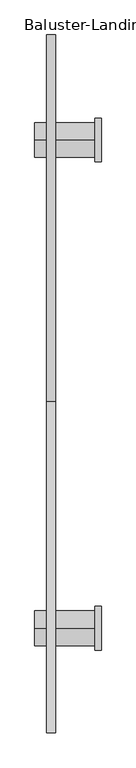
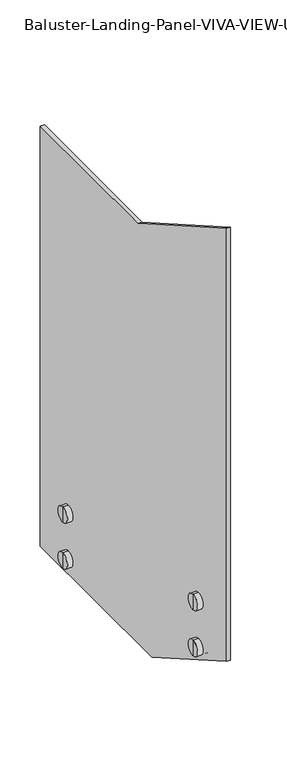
"""IFC4 building model written with IfcOpenShell, lengths in millimetres: railing geometry, Baluster-Landing-Panel-VIVA-VIEW-Upper : Standard_Glass Plate."""

import ifcopenshell
import ifcopenshell.guid

model = None  # the IFC model being written
_history = None  # IfcOwnerHistory: only IFC2X3 demands one
_inside = {}  # id of a spatial element -> (the spatial element, [elements in it])
_under = {}  # id of a project, library or spatial element -> (it, [spatial elements below it])
_declared = {}  # id of a project -> (the project, [libraries it declares])
_typed = {}  # id of a type object -> (the type object, [elements of that type])
_made_of = {}  # id of a material, layer set ... -> (it, [elements and type objects made of it])


def new_model(schema):
    """Start an empty IFC model of exactly this schema.

    Asked for "IFC4X3", IfcOpenShell would pick the latest addendum, in which some entities
    have other attributes; the version numbers below select the first issue.
    IFC2X3 requires an IfcOwnerHistory on every rooted entity: one is made here for all.
    """
    global model, _history
    if schema == "IFC4X3":
        model = ifcopenshell.file(schema_version=(4, 3, 0, 0))
    else:
        model = ifcopenshell.file(schema=schema)
    _inside.clear()
    _under.clear()
    _declared.clear()
    _typed.clear()
    _made_of.clear()
    _history = None
    if model.schema == "IFC2X3":
        org = make("IfcOrganization", Name="unknown")
        user = make(
            "IfcPersonAndOrganization",
            ThePerson=make("IfcPerson", FamilyName="unknown"),
            TheOrganization=org,
        )
        app = make(
            "IfcApplication",
            ApplicationDeveloper=org,
            Version="unknown",
            ApplicationFullName="unknown",
            ApplicationIdentifier="unknown",
        )
        _history = make(
            "IfcOwnerHistory",
            OwningUser=user,
            OwningApplication=app,
            ChangeAction="ADDED",
            CreationDate=0,
        )
    return model


def make(cls, **values):
    """One entity of the class cls with the attributes given. An attribute that is None is left unset."""
    return model.create_entity(
        cls, **{name: value for name, value in values.items() if value is not None}
    )


def rooted(cls, **values):
    """An entity with a GlobalId (a new one), such as an element, a storey or a relation."""
    return make(cls, GlobalId=ifcopenshell.guid.new(), OwnerHistory=_history, **values)


def si_unit(unit_type, name, prefix=None):
    """IfcSIUnit, for example si_unit("LENGTHUNIT", "METRE", prefix="MILLI")."""
    return make("IfcSIUnit", UnitType=unit_type, Prefix=prefix, Name=name)


def assignment(units):
    """IfcUnitAssignment: the units of a project."""
    return None if units is None else make("IfcUnitAssignment", Units=units)


def point(xyz):
    """IfcCartesianPoint."""
    return None if xyz is None else make("IfcCartesianPoint", Coordinates=xyz)


def direction(xyz):
    """IfcDirection."""
    return None if xyz is None else make("IfcDirection", DirectionRatios=xyz)


def frame(location, z_axis=None, x_axis=None):
    """IfcAxis2Placement3D, a coordinate frame: its origin and axes. An axis left out is left unset."""
    return make(
        "IfcAxis2Placement3D",
        Location=point(location),
        Axis=direction(z_axis),
        RefDirection=direction(x_axis),
    )


def frame_2d(location, x_axis=None):
    """IfcAxis2Placement2D, a coordinate frame in the plane: its origin and x axis."""
    return make(
        "IfcAxis2Placement2D", Location=point(location), RefDirection=direction(x_axis)
    )


def origin():
    """The frame at (0, 0, 0) with its axes left unset."""
    return frame((0.0, 0.0, 0.0))


def place(relative_to, where):
    """IfcLocalPlacement: puts the frame where relative to a parent placement (None: the world)."""
    return make(
        "IfcLocalPlacement", PlacementRelTo=relative_to, RelativePlacement=where
    )


def context(
    kind, dimensions, precision=None, world=None, true_north=None, identifier=None
):
    """IfcGeometricRepresentationContext, for example the 3D "Model" context."""
    return make(
        "IfcGeometricRepresentationContext",
        ContextIdentifier=identifier,
        ContextType=kind,
        CoordinateSpaceDimension=dimensions,
        Precision=precision,
        WorldCoordinateSystem=world,
        TrueNorth=true_north,
    )


def project(units=None, contexts=None):
    """IfcProject with its units and contexts."""
    return rooted(
        "IfcProject",
        Name="project",
        RepresentationContexts=contexts,
        UnitsInContext=assignment(units),
    )


def spatial(cls, under=None, at=None, **own):
    """A site, building, storey or space (cls), placed at a placement, below another one or the project."""
    s = rooted(cls, ObjectPlacement=at, **own)
    if under is not None:
        _under.setdefault(under.id(), (under, []))[1].append(s)
    return s


def polyline(points):
    """IfcPolyline through the points."""
    return make("IfcPolyline", Points=[point(p) for p in points])


def circle_curve(where, radius):
    """IfcCircle in the frame where."""
    return make("IfcCircle", Position=where, Radius=radius)


def trimmed(basis, trim1, trim2, sense, master):
    """IfcTrimmedCurve: the piece of a basis curve between two trims."""
    return make(
        "IfcTrimmedCurve",
        BasisCurve=basis,
        Trim1=trim1,
        Trim2=trim2,
        SenseAgreement=sense,
        MasterRepresentation=master,
    )


def segment(curve, same_sense, transition):
    """IfcCompositeCurveSegment."""
    return make(
        "IfcCompositeCurveSegment",
        Transition=transition,
        SameSense=same_sense,
        ParentCurve=curve,
    )


def composite_curve(segments, self_intersect=None):
    """IfcCompositeCurve: segments joined end to end."""
    return make("IfcCompositeCurve", Segments=segments, SelfIntersect=self_intersect)


def outline(outer, holes=None, kind="AREA"):
    """IfcArbitraryClosedProfileDef: a profile drawn as a closed curve; with holes, ...WithVoids."""
    if holes is None:
        return make("IfcArbitraryClosedProfileDef", ProfileType=kind, OuterCurve=outer)
    return make(
        "IfcArbitraryProfileDefWithVoids",
        ProfileType=kind,
        OuterCurve=outer,
        InnerCurves=holes,
    )


def extrude(swept, where, along, depth):
    """IfcExtrudedAreaSolid: the profile swept, set in the frame where, extruded along a direction by depth."""
    return make(
        "IfcExtrudedAreaSolid",
        SweptArea=swept,
        Position=where,
        ExtrudedDirection=direction(along),
        Depth=depth,
    )


def shape(context_of_items, identifier, shape_type, items):
    """IfcShapeRepresentation: the items that make up one representation, for example the "Body"."""
    return make(
        "IfcShapeRepresentation",
        ContextOfItems=context_of_items,
        RepresentationIdentifier=identifier,
        RepresentationType=shape_type,
        Items=items,
    )


def source(mapping_origin, context_of_items, identifier, shape_type, items):
    """IfcRepresentationMap: a shape defined once, which mapped items show again and again."""
    return make(
        "IfcRepresentationMap",
        MappingOrigin=mapping_origin,
        MappedRepresentation=shape(context_of_items, identifier, shape_type, items),
    )


def transform(
    local_origin,
    x_axis=None,
    y_axis=None,
    z_axis=None,
    scale=None,
    scale2=None,
    scale3=None,
    uniform=True,
):
    """IfcCartesianTransformationOperator3D, or its non-uniform kind. x_axis, y_axis, z_axis: its Axis1, 2, 3."""
    if uniform:
        return make(
            "IfcCartesianTransformationOperator3D",
            Axis1=direction(x_axis),
            Axis2=direction(y_axis),
            LocalOrigin=point(local_origin),
            Scale=scale,
            Axis3=direction(z_axis),
        )
    return make(
        "IfcCartesianTransformationOperator3DnonUniform",
        Axis1=direction(x_axis),
        Axis2=direction(y_axis),
        LocalOrigin=point(local_origin),
        Scale=scale,
        Axis3=direction(z_axis),
        Scale2=scale2,
        Scale3=scale3,
    )


def mapped(mapping_source, mapping_target):
    """IfcMappedItem: shows the shape of a source again, moved by a transform."""
    return make(
        "IfcMappedItem", MappingSource=mapping_source, MappingTarget=mapping_target
    )


def made_of(thing, what):
    """Note that an element or type object is made of a material, layer set ...; save() writes the relation."""
    if what is not None:
        _made_of.setdefault(what.id(), (what, []))[1].append(thing)
    return thing


def element(
    cls,
    number,
    at=None,
    inside=None,
    cuts=None,
    type_object=None,
    material=None,
    context=None,
    identifier="Body",
    shape_type=None,
    held_by="IfcProductDefinitionShape",
    body=None,
    shapes=None,
    **own,
):
    """One element of the class cls, such as IfcWall. Its Tag is "e" and its number.

    at: its placement. inside: the storey or other place that contains it. cuts: it is an
    opening in that element (IfcRelVoidsElement). A single representation is given by context,
    identifier, shape_type and body (its items); several are given by shapes. held_by: the class
    of the entity that holds the representations. save() writes the other relations.
    """
    e = rooted(cls, Tag="e%d" % number, ObjectPlacement=at, **own)
    if body is not None:
        shapes = [shape(context, identifier, shape_type, body)]
    if shapes is not None:
        e.Representation = make(held_by, Representations=shapes)
    if inside is not None:
        _inside.setdefault(inside.id(), (inside, []))[1].append(e)
    if cuts is not None:
        rooted(
            "IfcRelVoidsElement", RelatingBuildingElement=cuts, RelatedOpeningElement=e
        )
    if type_object is not None:
        _typed.setdefault(type_object.id(), (type_object, []))[1].append(e)
    return made_of(e, material)


def aggregate(whole, parts):
    """IfcRelAggregates: a whole, such as a stair, and the parts it consists of."""
    return rooted("IfcRelAggregates", RelatingObject=whole, RelatedObjects=parts)


def save(model, path):
    """Write the relations noted so far, then the file.

    IfcRelAggregates (storeys below a building ...), IfcRelContainedInSpatialStructure (elements
    in a storey), IfcRelDefinesByType, IfcRelAssociatesMaterial and IfcRelDeclares: one each for
    every whole, place, type object, material and project.
    """
    for whole, parts in _under.values():
        aggregate(whole, parts)
    for where, things in _inside.values():
        rooted(
            "IfcRelContainedInSpatialStructure",
            RelatedElements=things,
            RelatingStructure=where,
        )
    for kind, things in _typed.values():
        rooted("IfcRelDefinesByType", RelatedObjects=things, RelatingType=kind)
    for what, things in _made_of.values():
        rooted("IfcRelAssociatesMaterial", RelatedObjects=things, RelatingMaterial=what)
    for by, libraries in _declared.values():
        rooted("IfcRelDeclares", RelatingContext=by, RelatedDefinitions=libraries)
    model.write(path)


def plane_surface(at):
    """IfcPlane: the flat surface through the origin of the frame at, square to its z axis."""
    return make("IfcPlane", Position=at)


def cylinder_surface(at, radius):
    """IfcCylindricalSurface: all points at the distance radius from the z axis of the frame at."""
    return make("IfcCylindricalSurface", Position=at, Radius=radius)


def advanced_brep(points, edges, surfaces, faces):
    """IfcAdvancedBrep: a solid bounded by faces that lie on surfaces and meet in shared edges.

    An edge is (start, end): straight between two places in points (the first is 0);
    or (start, end, curve); or (start, end, curve, False) where it runs against its curve.
    A face is (place in surfaces, loops), or (place, loops, False) where it looks against
    its surface's normal. A loop lists edges by number (the first is 1), with a minus sign
    where the edge is run from its end to its start. The first loop is the outer one.
    """
    corners = [point(p) for p in points]
    vertices = [make("IfcVertexPoint", VertexGeometry=c) for c in corners]
    made = []
    for start, end, *more in edges:
        made.append(
            make(
                "IfcEdgeCurve",
                EdgeStart=vertices[start],
                EdgeEnd=vertices[end],
                EdgeGeometry=more[0] if more else make("IfcPolyline", Points=[corners[start], corners[end]]),
                SameSense=more[1] if len(more) > 1 else True,
            )
        )
    hull = []
    for where, loops, *sense in faces:
        bounds = []
        for j, loop in enumerate(loops):
            ring = [make("IfcOrientedEdge", EdgeElement=made[abs(k) - 1], Orientation=k > 0) for k in loop]
            bounds.append(
                make(
                    "IfcFaceOuterBound" if j == 0 else "IfcFaceBound",
                    Bound=make("IfcEdgeLoop", EdgeList=ring),
                    Orientation=True,
                )
            )
        hull.append(make("IfcAdvancedFace", Bounds=bounds, FaceSurface=surfaces[where], SameSense=sense[0] if sense else True))
    return make("IfcAdvancedBrep", Outer=make("IfcClosedShell", CfsFaces=hull))


def baluster_landing_panel_viva_view_upper_standard_glass_plate_0fa8d9fb(model_context):
    return source(origin(), model_context, "Body", "SolidModel", [
        advanced_brep(
        [(14.1452292, 152.4, -161.189208), (14.1452292, 152.4, -135.789208), (14.1452292, 152.4, -110.389208), (31.6077292, 152.4, -161.189208), (31.6077292, 152.4, -110.389208), (31.6077292, 152.4, -141.504208), (31.6077292, 152.4, -130.074208), (44.3077292, 152.4, -141.504208), (44.3077292, 152.4, -130.074208), (44.3077292, 152.4, -161.189208), (44.3077292, 152.4, -110.389208), (101.4575823, 152.4, -161.189208), (101.4575823, 152.4, -110.389208), (101.4575823, 152.4, -135.789208)],
        [
            (0, 1),
            (1, 2),
            (2, 0, circle_curve(frame((14.1452292, 152.4, -135.789208), z_axis=(-1.0, 0.0, 0.0), x_axis=(0.0, 0.0, 1.0)), 25.4)),
            (0, 2, circle_curve(frame((14.1452292, 152.4, -135.789208), z_axis=(-1.0, 0.0, 0.0), x_axis=(0.0, 0.0, 1.0)), 25.4)),
            (3, 0),
            (2, 4),
            (4, 3, circle_curve(frame((31.6077292, 152.4, -135.789208), z_axis=(-1.0, 0.0, 0.0), x_axis=(0.0, 0.0, 1.0)), 25.4)),
            (3, 4, circle_curve(frame((31.6077292, 152.4, -135.789208), z_axis=(-1.0, 0.0, 0.0), x_axis=(0.0, 0.0, 1.0)), 25.4)),
            (5, 3),
            (4, 6),
            (6, 5, circle_curve(frame((31.6077292, 152.4, -135.789208), z_axis=(-1.0, 0.0, 0.0), x_axis=(0.0, 0.0, 1.0)), 5.715)),
            (5, 6, circle_curve(frame((31.6077292, 152.4, -135.789208), z_axis=(-1.0, 0.0, 0.0), x_axis=(0.0, 0.0, 1.0)), 5.715)),
            (7, 5),
            (6, 8),
            (8, 7, circle_curve(frame((44.3077292, 152.4, -135.789208), z_axis=(-1.0, 0.0, 0.0), x_axis=(0.0, 0.0, 1.0)), 5.715)),
            (7, 8, circle_curve(frame((44.3077292, 152.4, -135.789208), z_axis=(-1.0, 0.0, 0.0), x_axis=(0.0, 0.0, 1.0)), 5.715)),
            (9, 7),
            (8, 10),
            (10, 9, circle_curve(frame((44.3077292, 152.4, -135.789208), z_axis=(-1.0, 0.0, 0.0), x_axis=(0.0, 0.0, 1.0)), 25.4)),
            (9, 10, circle_curve(frame((44.3077292, 152.4, -135.789208), z_axis=(-1.0, 0.0, 0.0), x_axis=(0.0, 0.0, 1.0)), 25.4)),
            (11, 9),
            (10, 12),
            (12, 11, circle_curve(frame((101.4575823, 152.4, -135.789208), z_axis=(-1.0, 0.0, 0.0), x_axis=(0.0, 0.0, 1.0)), 25.4)),
            (11, 12, circle_curve(frame((101.4575823, 152.4, -135.789208), z_axis=(-1.0, 0.0, 0.0), x_axis=(0.0, 0.0, 1.0)), 25.4)),
            (13, 11),
            (12, 13),
        ],
        [
            plane_surface(frame((14.1452292, 152.4, -135.789208), z_axis=(-1.0, 0.0, 0.0), x_axis=(0.0, 0.0, 1.0))),
            cylinder_surface(frame((-54.1174177, 152.4, -135.789208), z_axis=(1.0, 0.0, 0.0), x_axis=(0.0, 0.0, 1.0)), 25.4),
            plane_surface(frame((31.6077292, 152.4, -135.789208), z_axis=(1.0, 0.0, 0.0), x_axis=(0.0, 0.0, 1.0))),
            cylinder_surface(frame((-54.1174177, 152.4, -135.789208), z_axis=(1.0, 0.0, 0.0), x_axis=(0.0, 0.0, 1.0)), 5.715),
            plane_surface(frame((44.3077292, 152.4, -135.789208), z_axis=(-1.0, 0.0, 0.0), x_axis=(0.0, 0.0, 1.0))),
            plane_surface(frame((101.4575823, 152.4, -135.789208), z_axis=(1.0, 0.0, 0.0), x_axis=(0.0, 0.0, 1.0))),
        ],
        [
            (0, [[1, 2, 3]]),
            (0, [[-2, -1, 4]]),
            (1, [[5, -3, 6, 7]]),
            (1, [[-6, -4, -5, 8]]),
            (2, [[9, -7, 10, 11]]),
            (2, [[-10, -8, -9, 12]]),
            (3, [[13, -11, 14, 15]]),
            (3, [[-14, -12, -13, 16]]),
            (4, [[17, -15, 18, 19]]),
            (4, [[-18, -16, -17, 20]]),
            (1, [[21, -19, 22, 23]]),
            (1, [[-22, -20, -21, 24]]),
            (5, [[25, -23, 26]]),
            (5, [[-26, -24, -25]]),
        ],
    ),
        advanced_brep(
        [(31.6077292, 152.4, 10.895792), (31.6077292, 152.4, -8.789208), (31.6077292, 152.4, 42.010792), (31.6077292, 152.4, 22.325792), (44.3077292, 152.4, 10.895792), (44.3077292, 152.4, 22.325792), (44.3077292, 152.4, -8.789208), (44.3077292, 152.4, 42.010792), (101.4575823, 152.4, -8.789208), (101.4575823, 152.4, 42.010792), (101.4575823, 152.4, 16.610792), (14.1452292, 152.4, -8.789208), (14.1452292, 152.4, 16.610792), (14.1452292, 152.4, 42.010792)],
        [
            (0, 1),
            (1, 2, circle_curve(frame((31.6077292, 152.4, 16.610792), z_axis=(1.0, 0.0, 0.0), x_axis=(0.0, 0.0, 1.0)), 25.4)),
            (2, 3),
            (3, 0, circle_curve(frame((31.6077292, 152.4, 16.610792), z_axis=(-1.0, 0.0, 0.0), x_axis=(0.0, 0.0, 1.0)), 5.715)),
            (2, 1, circle_curve(frame((31.6077292, 152.4, 16.610792), z_axis=(1.0, 0.0, 0.0), x_axis=(0.0, 0.0, 1.0)), 25.4)),
            (0, 3, circle_curve(frame((31.6077292, 152.4, 16.610792), z_axis=(-1.0, 0.0, 0.0), x_axis=(0.0, 0.0, 1.0)), 5.715)),
            (4, 0),
            (3, 5),
            (5, 4, circle_curve(frame((44.3077292, 152.4, 16.610792), z_axis=(-1.0, 0.0, 0.0), x_axis=(0.0, 0.0, 1.0)), 5.715)),
            (4, 5, circle_curve(frame((44.3077292, 152.4, 16.610792), z_axis=(-1.0, 0.0, 0.0), x_axis=(0.0, 0.0, 1.0)), 5.715)),
            (6, 4),
            (5, 7),
            (7, 6, circle_curve(frame((44.3077292, 152.4, 16.610792), z_axis=(-1.0, 0.0, 0.0), x_axis=(0.0, 0.0, 1.0)), 25.4)),
            (6, 7, circle_curve(frame((44.3077292, 152.4, 16.610792), z_axis=(-1.0, 0.0, 0.0), x_axis=(0.0, 0.0, 1.0)), 25.4)),
            (8, 6),
            (7, 9),
            (9, 8, circle_curve(frame((101.4575823, 152.4, 16.610792), z_axis=(-1.0, 0.0, 0.0), x_axis=(0.0, 0.0, 1.0)), 25.4)),
            (8, 9, circle_curve(frame((101.4575823, 152.4, 16.610792), z_axis=(-1.0, 0.0, 0.0), x_axis=(0.0, 0.0, 1.0)), 25.4)),
            (10, 8),
            (9, 10),
            (11, 12),
            (12, 13),
            (13, 11, circle_curve(frame((14.1452292, 152.4, 16.610792), z_axis=(-1.0, 0.0, 0.0), x_axis=(0.0, 0.0, 1.0)), 25.4)),
            (11, 13, circle_curve(frame((14.1452292, 152.4, 16.610792), z_axis=(-1.0, 0.0, 0.0), x_axis=(0.0, 0.0, 1.0)), 25.4)),
            (1, 11),
            (13, 2),
        ],
        [
            plane_surface(frame((31.6077292, 152.4, 16.610792), z_axis=(1.0, 0.0, 0.0), x_axis=(0.0, 0.0, 1.0))),
            cylinder_surface(frame((-54.1174177, 152.4, 16.610792), z_axis=(1.0, 0.0, 0.0), x_axis=(0.0, 0.0, 1.0)), 5.715),
            plane_surface(frame((44.3077292, 152.4, 16.610792), z_axis=(-1.0, 0.0, 0.0), x_axis=(0.0, 0.0, 1.0))),
            cylinder_surface(frame((-54.1174177, 152.4, 16.610792), z_axis=(1.0, 0.0, 0.0), x_axis=(0.0, 0.0, 1.0)), 25.4),
            plane_surface(frame((101.4575823, 152.4, 16.610792), z_axis=(1.0, 0.0, 0.0), x_axis=(0.0, 0.0, 1.0))),
            plane_surface(frame((14.1452292, 152.4, 16.610792), z_axis=(-1.0, 0.0, 0.0), x_axis=(0.0, 0.0, 1.0))),
        ],
        [
            (0, [[1, 2, 3, 4]]),
            (0, [[-3, 5, -1, 6]]),
            (1, [[7, -4, 8, 9]]),
            (1, [[-8, -6, -7, 10]]),
            (2, [[11, -9, 12, 13]]),
            (2, [[-12, -10, -11, 14]]),
            (3, [[15, -13, 16, 17]]),
            (3, [[-16, -14, -15, 18]]),
            (4, [[19, -17, 20]]),
            (4, [[-20, -18, -19]]),
            (5, [[21, 22, 23]]),
            (5, [[-22, -21, 24]]),
            (3, [[25, -23, 26, -2]]),
            (3, [[-26, -24, -25, -5]]),
        ],
    ),
        extrude(outline(composite_curve([segment(trimmed(circle_curve(frame_2d((152.4, 16.610792)), 31.75), [point((120.65, 16.610792))], [point((184.15, 16.610792))], False, "CARTESIAN"), True, "CONTINUOUS"), segment(polyline([(184.15, 16.610792), (184.15, -135.789208)]), True, "CONTINUOUS"), segment(trimmed(circle_curve(frame_2d((152.4, -135.789208)), 31.75), [point((184.15, -135.789208))], [point((120.65, -135.789208))], False, "CARTESIAN"), True, "CONTINUOUS"), segment(polyline([(120.65, -135.789208), (120.65, 16.610792)]), True, "CONTINUOUS")], self_intersect=False)), frame((101.4575823, 0.0, 0.0), z_axis=(1.0, 0.0, 0.0), x_axis=(0.0, 1.0, 0.0)), (0.0, 0.0, 1.0), 9.525),
        advanced_brep(
        [(14.1452292, 861.6322056, -300.889208), (14.1452292, 861.6322056, -275.489208), (14.1452292, 861.6322056, -250.089208), (31.6077292, 861.6322056, -300.889208), (31.6077292, 861.6322056, -250.089208), (31.6077292, 861.6322056, -281.204208), (31.6077292, 861.6322056, -269.774208), (44.3077292, 861.6322056, -281.204208), (44.3077292, 861.6322056, -269.774208), (44.3077292, 861.6322056, -300.889208), (44.3077292, 861.6322056, -250.089208), (101.4575823, 861.6322056, -300.889208), (101.4575823, 861.6322056, -250.089208), (101.4575823, 861.6322056, -275.489208)],
        [
            (0, 1),
            (1, 2),
            (2, 0, circle_curve(frame((14.1452292, 861.6322056, -275.489208), z_axis=(-1.0, 0.0, 0.0), x_axis=(0.0, 0.0, 1.0)), 25.4)),
            (0, 2, circle_curve(frame((14.1452292, 861.6322056, -275.489208), z_axis=(-1.0, 0.0, 0.0), x_axis=(0.0, 0.0, 1.0)), 25.4)),
            (3, 0),
            (2, 4),
            (4, 3, circle_curve(frame((31.6077292, 861.6322056, -275.489208), z_axis=(-1.0, 0.0, 0.0), x_axis=(0.0, 0.0, 1.0)), 25.4)),
            (3, 4, circle_curve(frame((31.6077292, 861.6322056, -275.489208), z_axis=(-1.0, 0.0, 0.0), x_axis=(0.0, 0.0, 1.0)), 25.4)),
            (5, 3),
            (4, 6),
            (6, 5, circle_curve(frame((31.6077292, 861.6322056, -275.489208), z_axis=(-1.0, 0.0, 0.0), x_axis=(0.0, 0.0, 1.0)), 5.715)),
            (5, 6, circle_curve(frame((31.6077292, 861.6322056, -275.489208), z_axis=(-1.0, 0.0, 0.0), x_axis=(0.0, 0.0, 1.0)), 5.715)),
            (7, 5),
            (6, 8),
            (8, 7, circle_curve(frame((44.3077292, 861.6322056, -275.489208), z_axis=(-1.0, 0.0, 0.0), x_axis=(0.0, 0.0, 1.0)), 5.715)),
            (7, 8, circle_curve(frame((44.3077292, 861.6322056, -275.489208), z_axis=(-1.0, 0.0, 0.0), x_axis=(0.0, 0.0, 1.0)), 5.715)),
            (9, 7),
            (8, 10),
            (10, 9, circle_curve(frame((44.3077292, 861.6322056, -275.489208), z_axis=(-1.0, 0.0, 0.0), x_axis=(0.0, 0.0, 1.0)), 25.4)),
            (9, 10, circle_curve(frame((44.3077292, 861.6322056, -275.489208), z_axis=(-1.0, 0.0, 0.0), x_axis=(0.0, 0.0, 1.0)), 25.4)),
            (11, 9),
            (10, 12),
            (12, 11, circle_curve(frame((101.4575823, 861.6322056, -275.489208), z_axis=(-1.0, 0.0, 0.0), x_axis=(0.0, 0.0, 1.0)), 25.4)),
            (11, 12, circle_curve(frame((101.4575823, 861.6322056, -275.489208), z_axis=(-1.0, 0.0, 0.0), x_axis=(0.0, 0.0, 1.0)), 25.4)),
            (13, 11),
            (12, 13),
        ],
        [
            plane_surface(frame((14.1452292, 861.6322056, -275.489208), z_axis=(-1.0, 0.0, 0.0), x_axis=(0.0, 0.0, 1.0))),
            cylinder_surface(frame((-54.1174177, 861.6322056, -275.489208), z_axis=(1.0, 0.0, 0.0), x_axis=(0.0, 0.0, 1.0)), 25.4),
            plane_surface(frame((31.6077292, 861.6322056, -275.489208), z_axis=(1.0, 0.0, 0.0), x_axis=(0.0, 0.0, 1.0))),
            cylinder_surface(frame((-54.1174177, 861.6322056, -275.489208), z_axis=(1.0, 0.0, 0.0), x_axis=(0.0, 0.0, 1.0)), 5.715),
            plane_surface(frame((44.3077292, 861.6322056, -275.489208), z_axis=(-1.0, 0.0, 0.0), x_axis=(0.0, 0.0, 1.0))),
            plane_surface(frame((101.4575823, 861.6322056, -275.489208), z_axis=(1.0, 0.0, 0.0), x_axis=(0.0, 0.0, 1.0))),
        ],
        [
            (0, [[1, 2, 3]]),
            (0, [[-2, -1, 4]]),
            (1, [[5, -3, 6, 7]]),
            (1, [[-6, -4, -5, 8]]),
            (2, [[9, -7, 10, 11]]),
            (2, [[-10, -8, -9, 12]]),
            (3, [[13, -11, 14, 15]]),
            (3, [[-14, -12, -13, 16]]),
            (4, [[17, -15, 18, 19]]),
            (4, [[-18, -16, -17, 20]]),
            (1, [[21, -19, 22, 23]]),
            (1, [[-22, -20, -21, 24]]),
            (5, [[25, -23, 26]]),
            (5, [[-26, -24, -25]]),
        ],
    ),
        advanced_brep(
        [(31.6077292, 861.6322056, -128.804208), (31.6077292, 861.6322056, -148.489208), (31.6077292, 861.6322056, -97.689208), (31.6077292, 861.6322056, -117.374208), (44.3077292, 861.6322056, -128.804208), (44.3077292, 861.6322056, -117.374208), (44.3077292, 861.6322056, -148.489208), (44.3077292, 861.6322056, -97.689208), (101.4575823, 861.6322056, -148.489208), (101.4575823, 861.6322056, -97.689208), (101.4575823, 861.6322056, -123.089208), (14.1452292, 861.6322056, -148.489208), (14.1452292, 861.6322056, -123.089208), (14.1452292, 861.6322056, -97.689208)],
        [
            (0, 1),
            (1, 2, circle_curve(frame((31.6077292, 861.6322056, -123.089208), z_axis=(1.0, 0.0, 0.0), x_axis=(0.0, 0.0, 1.0)), 25.4)),
            (2, 3),
            (3, 0, circle_curve(frame((31.6077292, 861.6322056, -123.089208), z_axis=(-1.0, 0.0, 0.0), x_axis=(0.0, 0.0, 1.0)), 5.715)),
            (2, 1, circle_curve(frame((31.6077292, 861.6322056, -123.089208), z_axis=(1.0, 0.0, 0.0), x_axis=(0.0, 0.0, 1.0)), 25.4)),
            (0, 3, circle_curve(frame((31.6077292, 861.6322056, -123.089208), z_axis=(-1.0, 0.0, 0.0), x_axis=(0.0, 0.0, 1.0)), 5.715)),
            (4, 0),
            (3, 5),
            (5, 4, circle_curve(frame((44.3077292, 861.6322056, -123.089208), z_axis=(-1.0, 0.0, 0.0), x_axis=(0.0, 0.0, 1.0)), 5.715)),
            (4, 5, circle_curve(frame((44.3077292, 861.6322056, -123.089208), z_axis=(-1.0, 0.0, 0.0), x_axis=(0.0, 0.0, 1.0)), 5.715)),
            (6, 4),
            (5, 7),
            (7, 6, circle_curve(frame((44.3077292, 861.6322056, -123.089208), z_axis=(-1.0, 0.0, 0.0), x_axis=(0.0, 0.0, 1.0)), 25.4)),
            (6, 7, circle_curve(frame((44.3077292, 861.6322056, -123.089208), z_axis=(-1.0, 0.0, 0.0), x_axis=(0.0, 0.0, 1.0)), 25.4)),
            (8, 6),
            (7, 9),
            (9, 8, circle_curve(frame((101.4575823, 861.6322056, -123.089208), z_axis=(-1.0, 0.0, 0.0), x_axis=(0.0, 0.0, 1.0)), 25.4)),
            (8, 9, circle_curve(frame((101.4575823, 861.6322056, -123.089208), z_axis=(-1.0, 0.0, 0.0), x_axis=(0.0, 0.0, 1.0)), 25.4)),
            (10, 8),
            (9, 10),
            (11, 12),
            (12, 13),
            (13, 11, circle_curve(frame((14.1452292, 861.6322056, -123.089208), z_axis=(-1.0, 0.0, 0.0), x_axis=(0.0, 0.0, 1.0)), 25.4)),
            (11, 13, circle_curve(frame((14.1452292, 861.6322056, -123.089208), z_axis=(-1.0, 0.0, 0.0), x_axis=(0.0, 0.0, 1.0)), 25.4)),
            (1, 11),
            (13, 2),
        ],
        [
            plane_surface(frame((31.6077292, 861.6322056, -123.089208), z_axis=(1.0, 0.0, 0.0), x_axis=(0.0, 0.0, 1.0))),
            cylinder_surface(frame((-54.1174177, 861.6322056, -123.089208), z_axis=(1.0, 0.0, 0.0), x_axis=(0.0, 0.0, 1.0)), 5.715),
            plane_surface(frame((44.3077292, 861.6322056, -123.089208), z_axis=(-1.0, 0.0, 0.0), x_axis=(0.0, 0.0, 1.0))),
            cylinder_surface(frame((-54.1174177, 861.6322056, -123.089208), z_axis=(1.0, 0.0, 0.0), x_axis=(0.0, 0.0, 1.0)), 25.4),
            plane_surface(frame((101.4575823, 861.6322056, -123.089208), z_axis=(1.0, 0.0, 0.0), x_axis=(0.0, 0.0, 1.0))),
            plane_surface(frame((14.1452292, 861.6322056, -123.089208), z_axis=(-1.0, 0.0, 0.0), x_axis=(0.0, 0.0, 1.0))),
        ],
        [
            (0, [[1, 2, 3, 4]]),
            (0, [[-3, 5, -1, 6]]),
            (1, [[7, -4, 8, 9]]),
            (1, [[-8, -6, -7, 10]]),
            (2, [[11, -9, 12, 13]]),
            (2, [[-12, -10, -11, 14]]),
            (3, [[15, -13, 16, 17]]),
            (3, [[-16, -14, -15, 18]]),
            (4, [[19, -17, 20]]),
            (4, [[-20, -18, -19]]),
            (5, [[21, 22, 23]]),
            (5, [[-22, -21, 24]]),
            (3, [[25, -23, 26, -2]]),
            (3, [[-26, -24, -25, -5]]),
        ],
    ),
        extrude(outline(composite_curve([segment(trimmed(circle_curve(frame_2d((861.6322056, -123.089208)), 31.75), [point((829.8822056, -123.089208))], [point((893.3822056, -123.089208))], False, "CARTESIAN"), True, "CONTINUOUS"), segment(polyline([(893.3822056, -123.089208), (893.3822056, -275.489208)]), True, "CONTINUOUS"), segment(trimmed(circle_curve(frame_2d((861.6322056, -275.489208)), 31.75), [point((893.3822056, -275.489208))], [point((829.8822056, -275.489208))], False, "CARTESIAN"), True, "CONTINUOUS"), segment(polyline([(829.8822056, -275.489208), (829.8822056, -123.089208)]), True, "CONTINUOUS")], self_intersect=False)), frame((101.4575823, 0.0, 0.0), z_axis=(1.0, 0.0, 0.0), x_axis=(0.0, 1.0, 0.0)), (0.0, 0.0, 1.0), 9.525),
        extrude(outline(polyline([(481.6709032, 1067.6292413), (1014.0322056, 1067.6292413), (1014.0322056, -326.289208), (405.6277548, -326.289208), (0.0, -94.5477587), (0.0, 1342.8153248), (481.6709032, 1067.6292413)])), frame((31.6077292, 0.0, 0.0), z_axis=(1.0, 0.0, 0.0), x_axis=(0.0, 1.0, 0.0)), (0.0, 0.0, 1.0), 12.7),
    ])


if __name__ == "__main__":
    model = new_model("IFC4")
    model_context = context("Model", 3, world=origin())
    ifc_project = project(units=[si_unit("LENGTHUNIT", "METRE", prefix="MILLI")], contexts=[model_context])
    site = spatial("IfcSite", under=ifc_project)
    building = spatial("IfcBuilding", under=site)
    placement = place(None, origin())
    baluster_landing_panel_viva_view_upper_standard_glass_plate_shape = baluster_landing_panel_viva_view_upper_standard_glass_plate_0fa8d9fb(model_context)
    element("IfcRailing", 1, ObjectType="Baluster-Landing-Panel-VIVA-VIEW-Upper : Standard_Glass Plate", at=placement, inside=building, context=model_context, shape_type="MappedRepresentation", body=[
        mapped(baluster_landing_panel_viva_view_upper_standard_glass_plate_shape, transform((0.0, 0.0, 0.0), x_axis=(1.0, 0.0, 0.0), y_axis=(0.0, 1.0, 0.0), z_axis=(0.0, 0.0, 1.0))),
    ])
    save(model, "model.ifc")
